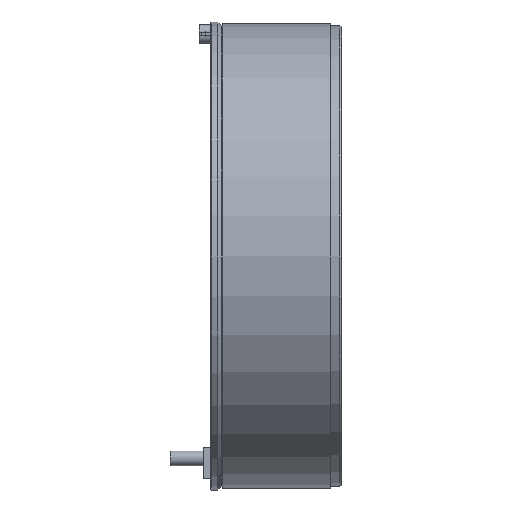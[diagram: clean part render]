
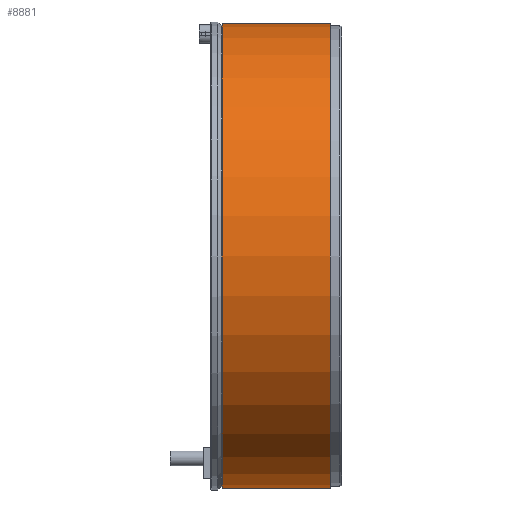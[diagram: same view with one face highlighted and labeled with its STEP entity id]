
A CAD part, left-side view. The second image highlights one B-rep face of the part: STEP entity #8881.
In plain terms, the highlighted cylindrical face has radius 284 mm (diameter 568 mm), a partial arc.
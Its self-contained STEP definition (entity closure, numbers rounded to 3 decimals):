
#716 = CARTESIAN_POINT ( 'NONE',  ( 0., 13.5, 284. ) ) ;
#884 = VERTEX_POINT ( 'NONE', #716 ) ;
#1217 = CYLINDRICAL_SURFACE ( 'NONE', #5464, 284. ) ;
#2140 = CARTESIAN_POINT ( 'NONE',  ( 0., 0., 0. ) ) ;
#2242 = DIRECTION ( 'NONE',  ( 0., -1., 0. ) ) ;
#2365 = DIRECTION ( 'NONE',  ( 0., -1., 0. ) ) ;
#2492 = EDGE_CURVE ( 'NONE', #5041, #884, #10615, .T. ) ;
#3002 = AXIS2_PLACEMENT_3D ( 'NONE', #8154, #2365, #12856 ) ;
#3833 = ORIENTED_EDGE ( 'NONE', *, *, #7088, .T. ) ;
#4401 = VECTOR ( 'NONE', #5977, 1000. ) ;
#4617 = ORIENTED_EDGE ( 'NONE', *, *, #10470, .F. ) ;
#4833 = VECTOR ( 'NONE', #5399, 1000. ) ;
#5041 = VERTEX_POINT ( 'NONE', #14337 ) ;
#5399 = DIRECTION ( 'NONE',  ( 0., -1., 0. ) ) ;
#5464 = AXIS2_PLACEMENT_3D ( 'NONE', #2140, #2242, #10342 ) ;
#5965 = CIRCLE ( 'NONE', #3002, 284. ) ;
#5977 = DIRECTION ( 'NONE',  ( 0., -1., 0. ) ) ;
#6177 = VERTEX_POINT ( 'NONE', #14855 ) ;
#6261 = CIRCLE ( 'NONE', #11681, 284. ) ;
#6983 = EDGE_LOOP ( 'NONE', ( #9862, #3833, #8002, #4617 ) ) ;
#7088 = EDGE_CURVE ( 'NONE', #5041, #6177, #5965, .T. ) ;
#7460 = VERTEX_POINT ( 'NONE', #12381 ) ;
#7817 = CARTESIAN_POINT ( 'NONE',  ( 0., 13.5, 0. ) ) ;
#8002 = ORIENTED_EDGE ( 'NONE', *, *, #11823, .T. ) ;
#8154 = CARTESIAN_POINT ( 'NONE',  ( 0., 146., 0. ) ) ;
#8202 = CARTESIAN_POINT ( 'NONE',  ( 0., 0., -284. ) ) ;
#8881 = ADVANCED_FACE ( 'NONE', ( #13306 ), #1217, .T. ) ;
#9862 = ORIENTED_EDGE ( 'NONE', *, *, #2492, .F. ) ;
#10146 = DIRECTION ( 'NONE',  ( 0., -1., 0. ) ) ;
#10342 = DIRECTION ( 'NONE',  ( 0., 0., -1. ) ) ;
#10470 = EDGE_CURVE ( 'NONE', #884, #7460, #6261, .T. ) ;
#10615 = LINE ( 'NONE', #14471, #4833 ) ;
#11665 = LINE ( 'NONE', #8202, #4401 ) ;
#11681 = AXIS2_PLACEMENT_3D ( 'NONE', #7817, #10146, #13548 ) ;
#11823 = EDGE_CURVE ( 'NONE', #6177, #7460, #11665, .T. ) ;
#12381 = CARTESIAN_POINT ( 'NONE',  ( 0., 13.5, -284. ) ) ;
#12856 = DIRECTION ( 'NONE',  ( 0., 0., -1. ) ) ;
#13306 = FACE_OUTER_BOUND ( 'NONE', #6983, .T. ) ;
#13548 = DIRECTION ( 'NONE',  ( 0., 0., -1. ) ) ;
#14337 = CARTESIAN_POINT ( 'NONE',  ( 0., 146., 284. ) ) ;
#14471 = CARTESIAN_POINT ( 'NONE',  ( 0., 0., 284. ) ) ;
#14855 = CARTESIAN_POINT ( 'NONE',  ( 0., 146., -284. ) ) ;
